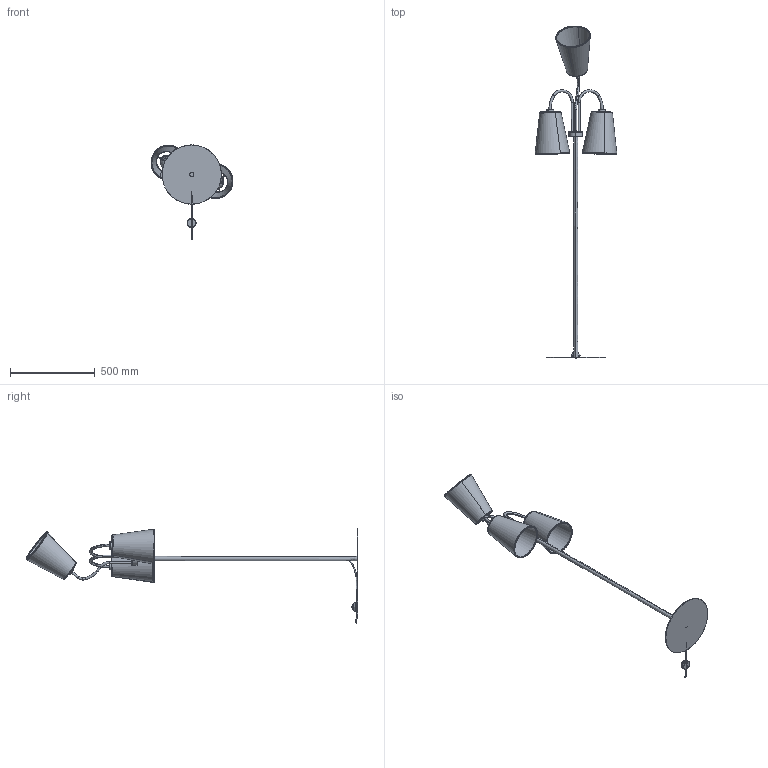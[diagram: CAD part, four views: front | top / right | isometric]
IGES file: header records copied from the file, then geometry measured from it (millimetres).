
Start section: SolidWorks IGES file using analytic representation for surfaces
Global section: file name: E:\3D lampy\Flex shade\Flex_9754,9760.IGS; native system: SolidWorks 2016; preprocessor: SolidWorks 2016; author: Asia; date: 170629.130021; units: millimetre
Bounding box: 483.72 x 1960.5 x 556.17 mm (x, y, z)
Surface area: 1490763.7 mm2 (no closed solid volume)
Topology: 0 solids, 0 shells, 963 faces, 14278 edges, 14273 vertices
Faces by surface type: revolution 499, bspline 464
